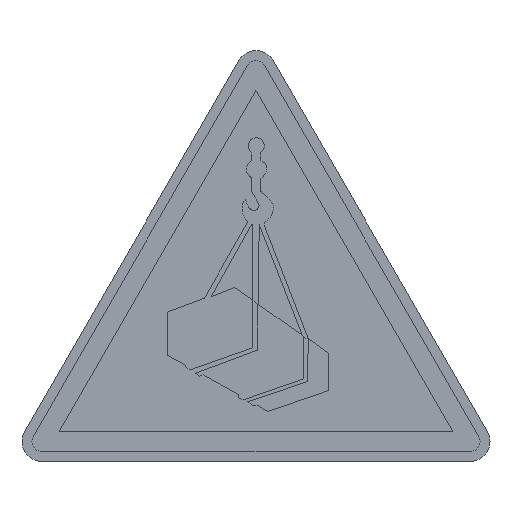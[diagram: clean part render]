
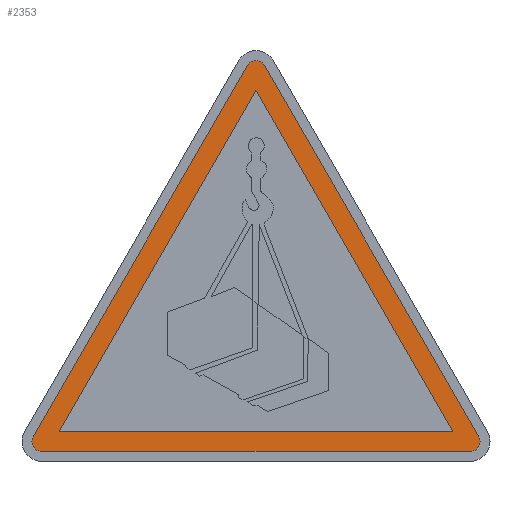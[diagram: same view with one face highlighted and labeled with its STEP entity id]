
A CAD part, top view. The second image highlights one B-rep face of the part: STEP entity #2353.
In plain terms, the highlighted planar face has unit normal (0, 0, 1).
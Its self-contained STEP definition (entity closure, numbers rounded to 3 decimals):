
#66 = VERTEX_POINT ( 'NONE', #2750 ) ;
#67 = EDGE_CURVE ( 'NONE', #2779, #66, #1396, .T. ) ;
#68 = CIRCLE ( 'NONE', #1866, 1. ) ;
#174 = VECTOR ( 'NONE', #855, 1000. ) ;
#218 = ORIENTED_EDGE ( 'NONE', *, *, #2801, .F. ) ;
#290 = DIRECTION ( 'NONE',  ( 1., 0., 0. ) ) ;
#302 = LINE ( 'NONE', #2769, #2203 ) ;
#326 = VERTEX_POINT ( 'NONE', #2828 ) ;
#390 = CARTESIAN_POINT ( 'NONE',  ( 22.402, 2.5, 0.22 ) ) ;
#391 = CARTESIAN_POINT ( 'NONE',  ( -19.804, 3., 0.22 ) ) ;
#422 = DIRECTION ( 'NONE',  ( 1., 0., 0. ) ) ;
#440 = ORIENTED_EDGE ( 'NONE', *, *, #2669, .F. ) ;
#554 = DIRECTION ( 'NONE',  ( 1., 0., 0. ) ) ;
#583 = EDGE_CURVE ( 'NONE', #66, #2201, #1798, .T. ) ;
#602 = CARTESIAN_POINT ( 'NONE',  ( -22.536, 2., 0.22 ) ) ;
#634 = CARTESIAN_POINT ( 'NONE',  ( -21.536, 2., 0.22 ) ) ;
#722 = CARTESIAN_POINT ( 'NONE',  ( 0., 37.301, 0.22 ) ) ;
#723 = AXIS2_PLACEMENT_3D ( 'NONE', #2227, #1785, #422 ) ;
#751 = ORIENTED_EDGE ( 'NONE', *, *, #67, .T. ) ;
#755 = DIRECTION ( 'NONE',  ( -0.5, -0.866, 0. ) ) ;
#807 = LINE ( 'NONE', #826, #2899 ) ;
#826 = CARTESIAN_POINT ( 'NONE',  ( 0., 37.301, 0.22 ) ) ;
#855 = DIRECTION ( 'NONE',  ( -0.5, 0.866, 0. ) ) ;
#857 = ORIENTED_EDGE ( 'NONE', *, *, #2530, .T. ) ;
#1083 = EDGE_LOOP ( 'NONE', ( #218, #440, #1283 ) ) ;
#1116 = DIRECTION ( 'NONE',  ( 1., 0., 0. ) ) ;
#1207 = CARTESIAN_POINT ( 'NONE',  ( -22.402, 2.5, 0.22 ) ) ;
#1259 = EDGE_CURVE ( 'NONE', #326, #2165, #2713, .T. ) ;
#1273 = VERTEX_POINT ( 'NONE', #602 ) ;
#1283 = ORIENTED_EDGE ( 'NONE', *, *, #1259, .F. ) ;
#1285 = VERTEX_POINT ( 'NONE', #1550 ) ;
#1287 = CARTESIAN_POINT ( 'NONE',  ( 19.804, 3., 0.22 ) ) ;
#1321 = VERTEX_POINT ( 'NONE', #1583 ) ;
#1396 = LINE ( 'NONE', #2312, #2790 ) ;
#1441 = DIRECTION ( 'NONE',  ( -0.5, -0.866, 0. ) ) ;
#1442 = EDGE_CURVE ( 'NONE', #2898, #1285, #68, .T. ) ;
#1446 = DIRECTION ( 'NONE',  ( 0., 0., 1. ) ) ;
#1500 = EDGE_CURVE ( 'NONE', #2201, #2898, #2761, .T. ) ;
#1503 = ORIENTED_EDGE ( 'NONE', *, *, #2298, .T. ) ;
#1510 = LINE ( 'NONE', #391, #2699 ) ;
#1543 = DIRECTION ( 'NONE',  ( 1., 0., 0. ) ) ;
#1550 = CARTESIAN_POINT ( 'NONE',  ( -0.866, 39.801, 0.22 ) ) ;
#1583 = CARTESIAN_POINT ( 'NONE',  ( -19.804, 3., 0.22 ) ) ;
#1666 = CARTESIAN_POINT ( 'NONE',  ( 21.536, 2., 0.22 ) ) ;
#1712 = AXIS2_PLACEMENT_3D ( 'NONE', #2067, #2302, #290 ) ;
#1715 = VECTOR ( 'NONE', #2322, 1000. ) ;
#1735 = VERTEX_POINT ( 'NONE', #1207 ) ;
#1785 = DIRECTION ( 'NONE',  ( 0., 0., 1. ) ) ;
#1798 = CIRCLE ( 'NONE', #2472, 1. ) ;
#1866 = AXIS2_PLACEMENT_3D ( 'NONE', #2607, #2848, #554 ) ;
#1909 = ORIENTED_EDGE ( 'NONE', *, *, #1991, .T. ) ;
#1923 = ORIENTED_EDGE ( 'NONE', *, *, #1500, .T. ) ;
#1991 = EDGE_CURVE ( 'NONE', #1273, #2779, #2301, .T. ) ;
#2012 = CIRCLE ( 'NONE', #723, 1. ) ;
#2020 = FACE_OUTER_BOUND ( 'NONE', #2536, .T. ) ;
#2067 = CARTESIAN_POINT ( 'NONE',  ( 0., 39.301, 0.22 ) ) ;
#2088 = CARTESIAN_POINT ( 'NONE',  ( 22.402, 2.5, 0.22 ) ) ;
#2125 = ORIENTED_EDGE ( 'NONE', *, *, #1442, .T. ) ;
#2152 = ORIENTED_EDGE ( 'NONE', *, *, #583, .T. ) ;
#2165 = VERTEX_POINT ( 'NONE', #722 ) ;
#2185 = CARTESIAN_POINT ( 'NONE',  ( -21.536, 1., 0.22 ) ) ;
#2201 = VERTEX_POINT ( 'NONE', #390 ) ;
#2203 = VECTOR ( 'NONE', #755, 1000. ) ;
#2227 = CARTESIAN_POINT ( 'NONE',  ( -21.536, 2., 0.22 ) ) ;
#2294 = DIRECTION ( 'NONE',  ( 0., 0., 1. ) ) ;
#2298 = EDGE_CURVE ( 'NONE', #1735, #1273, #2012, .T. ) ;
#2301 = CIRCLE ( 'NONE', #2682, 1. ) ;
#2302 = DIRECTION ( 'NONE',  ( 0., 0., 1. ) ) ;
#2312 = CARTESIAN_POINT ( 'NONE',  ( -21.536, 1., 0.22 ) ) ;
#2322 = DIRECTION ( 'NONE',  ( -0.5, 0.866, 0. ) ) ;
#2327 = DIRECTION ( 'NONE',  ( 1., 0., 0. ) ) ;
#2353 = ADVANCED_FACE ( 'NONE', ( #2020, #2737 ), #2514, .T. ) ;
#2472 = AXIS2_PLACEMENT_3D ( 'NONE', #1666, #1446, #2814 ) ;
#2514 = PLANE ( 'NONE',  #1712 ) ;
#2530 = EDGE_CURVE ( 'NONE', #1285, #1735, #302, .T. ) ;
#2536 = EDGE_LOOP ( 'NONE', ( #2125, #857, #1503, #1909, #751, #2152, #1923 ) ) ;
#2607 = CARTESIAN_POINT ( 'NONE',  ( 0., 39.301, 0.22 ) ) ;
#2669 = EDGE_CURVE ( 'NONE', #2165, #1321, #807, .T. ) ;
#2682 = AXIS2_PLACEMENT_3D ( 'NONE', #634, #2294, #1116 ) ;
#2699 = VECTOR ( 'NONE', #1543, 1000. ) ;
#2713 = LINE ( 'NONE', #1287, #174 ) ;
#2737 = FACE_BOUND ( 'NONE', #1083, .T. ) ;
#2750 = CARTESIAN_POINT ( 'NONE',  ( 21.536, 1., 0.22 ) ) ;
#2761 = LINE ( 'NONE', #2088, #1715 ) ;
#2769 = CARTESIAN_POINT ( 'NONE',  ( -0.866, 39.801, 0.22 ) ) ;
#2779 = VERTEX_POINT ( 'NONE', #2185 ) ;
#2790 = VECTOR ( 'NONE', #2327, 1000. ) ;
#2801 = EDGE_CURVE ( 'NONE', #1321, #326, #1510, .T. ) ;
#2803 = CARTESIAN_POINT ( 'NONE',  ( 0.866, 39.801, 0.22 ) ) ;
#2814 = DIRECTION ( 'NONE',  ( 1., 0., 0. ) ) ;
#2828 = CARTESIAN_POINT ( 'NONE',  ( 19.804, 3., 0.22 ) ) ;
#2848 = DIRECTION ( 'NONE',  ( 0., 0., 1. ) ) ;
#2898 = VERTEX_POINT ( 'NONE', #2803 ) ;
#2899 = VECTOR ( 'NONE', #1441, 1000. ) ;
